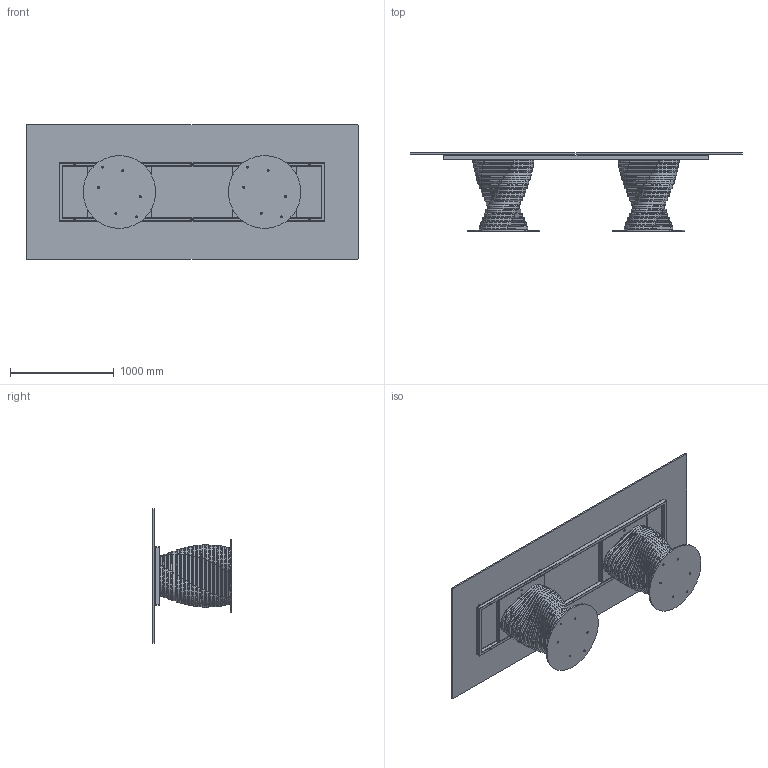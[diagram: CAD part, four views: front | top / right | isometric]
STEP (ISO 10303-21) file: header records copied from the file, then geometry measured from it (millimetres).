
FILE_DESCRIPTION (( 'STEP AP203' ), '1' );
FILE_NAME ('RO25G.STEP', '2024-08-07T13:19:12', ( '' ), ( '' ), 'SwSTEP 2.0', 'SolidWorks 2022', '' );
FILE_SCHEMA (( 'CONFIG_CONTROL_DESIGN' ));
Length unit declared in the file: millimetre
Products named in the file (15): M8xXXmm_M8x20mm; ROBX00000MED-00-Anello rotolo MEDIO_Default<A macchina>; ROBX00000-00-ROTOLO BASE 17 ANELLI; ROB200000-00-PIASTRA BASE_Ø70cm; COLLO TELAIO UNIVERSALE TTAV03 CON FERRAMENTA_MTG TOP CRISTALLO VERNICIATO-CERAMICA; M8xXXmm_hex_M8X20mm; TTAV03_01-06-RING TUBO TELAIO UNIVERSALE X TAVOLI 300-340cm; RO25G; TTAV03_02-06-VASSOIO IRRIGIDIMENTO TELAIO UNIVERSALE RETTANGOLARE; ROBX00000INF-00-Anello rotolo INFERIORE_Default<A macchina>; C2XCRXX-00-Piani Rettangolari Cristallo_25 3200x1300; TTAV03-06-TELAIO UNIVERSALE X TAVOLI 300-340cm; 434070-00-PIEDINO TPV GOMMA NERO D. 30x8max18_filo estetico; ROBX00000SUP-00-Anello rotolo SUPERIORE_Default<A macchina>; rondella M8_8X24
Assembly tree (63 placements, depth 4):
  RO25G
    ROB200000-00-PIASTRA BASE_Ø70cm  x2
    COLLO TELAIO UNIVERSALE TTAV03 CON FERRAMENTA_MTG TOP CRISTALLO VERNICIATO-CERAMICA
      TTAV03-06-TELAIO UNIVERSALE X TAVOLI 300-340cm
        TTAV03_01-06-RING TUBO TELAIO UNIVERSALE X TAVOLI 300-340cm
        TTAV03_02-06-VASSOIO IRRIGIDIMENTO TELAIO UNIVERSALE RETTANGOLARE  x2
      434070-00-PIEDINO TPV GOMMA NERO D. 30x8max18_filo estetico  x8
    ROBX00000-00-ROTOLO BASE 17 ANELLI  x2
      ROBX00000INF-00-Anello rotolo INFERIORE_Default<A macchina>
      ROBX00000MED-00-Anello rotolo MEDIO_Default<A macchina>
      ROBX00000SUP-00-Anello rotolo SUPERIORE_Default<A macchina>
    M8xXXmm_hex_M8X20mm  x12
    rondella M8_8X24  x8
    M8xXXmm_M8x20mm  x8
    C2XCRXX-00-Piani Rettangolari Cristallo_25 3200x1300
Bounding box: 3200 x 757 x 1300 mm (x, y, z)
Volume: 86085802.1 mm3; surface area: 23011792 mm2
Topology: 186 solids, 186 shells, 2830 faces, 6652 edges, 4148 vertices
Faces by surface type: plane 1170, cylinder 996, torus 424, cone 232, sphere 8
Entity records: 21134 total; most frequent: CARTESIAN_POINT 4678, DIRECTION 2981, ORIENTED_EDGE 2696, EDGE_CURVE 1348, AXIS2_PLACEMENT_3D 1122, VERTEX_POINT 843, LINE 737, VECTOR 737
